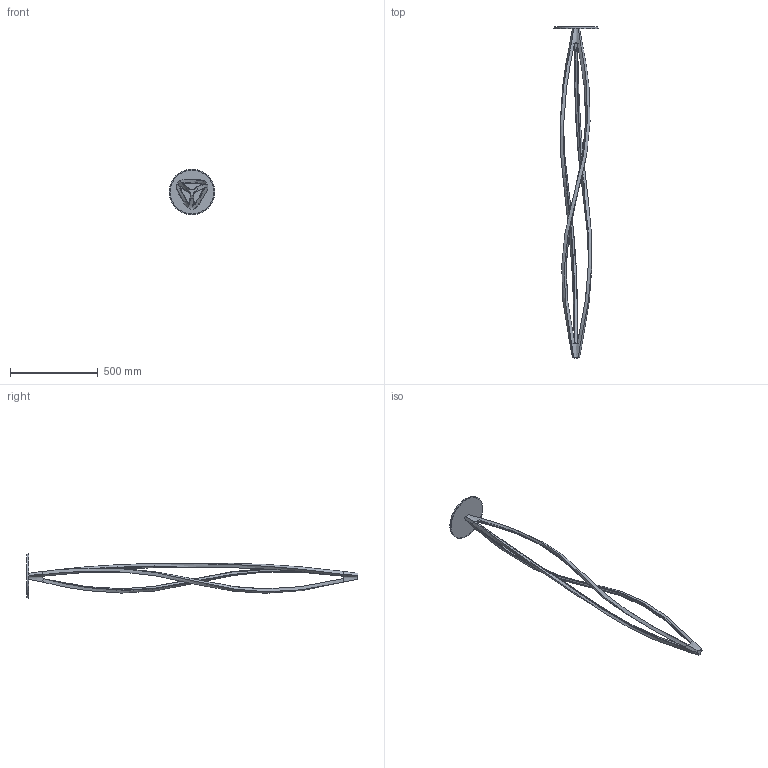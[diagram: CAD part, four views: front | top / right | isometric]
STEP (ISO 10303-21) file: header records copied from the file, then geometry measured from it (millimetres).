
FILE_DESCRIPTION (( 'STEP AP214' ), '1' );
FILE_NAME ('3D_IN_THE_WIND_FLOOR.STEP', '2018-02-16T09:03:33', ( 'Utente' ), ( '' ), 'SwSTEP 2.0', 'SolidWorks 2016', '' );
FILE_SCHEMA (( 'AUTOMOTIVE_DESIGN' ));
Length unit declared in the file: millimetre
Products named in the file (3): 3D_IN_THE_WIND_FLOOR; Group2^3D_IN_THE_WIND_FLOOR; Group1^3D_IN_THE_WIND_FLOOR
Assembly tree (2 placements, depth 2):
  3D_IN_THE_WIND_FLOOR
    Group1^3D_IN_THE_WIND_FLOOR
    Group2^3D_IN_THE_WIND_FLOOR
Bounding box: 260 x 1893.8 x 260 mm (x, y, z)
Volume: 2545783.5 mm3; surface area: 823923.9 mm2
Topology: 8 solids, 8 shells, 133 faces, 336 edges, 224 vertices
Faces by surface type: bspline 92, plane 31, cylinder 10
Entity records: 8985 total; most frequent: CARTESIAN_POINT 5985, ORIENTED_EDGE 672, EDGE_CURVE 336, DIRECTION 322, VERTEX_POINT 224, LINE 190, VECTOR 190, EDGE_LOOP 138
